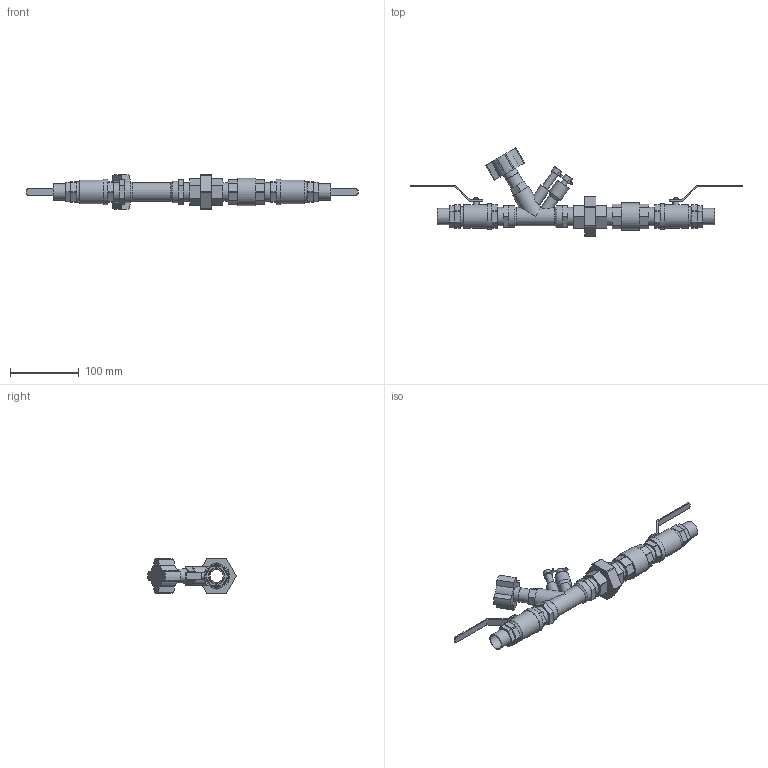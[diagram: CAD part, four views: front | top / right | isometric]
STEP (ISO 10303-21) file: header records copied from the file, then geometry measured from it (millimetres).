
FILE_DESCRIPTION(/* description */ ('VIC DOMESTIC WATER KIT FOR HYDRONIC BALANCING SERIES 7W9 (SWT)','CAx-IF Rec.Pracs.---Representation and Presentation of Product Manufacturing Information (PMI)---4.0---2014-10-13'),/* implementation_level */ '2;1');
FILE_NAME(/* name */ 'C:\Users\Vjadhav\AppData\Roaming\Autodesk\ApplicationPlugins\Victaulic.Temp\A633\Victaulic_Domestic Water Kit for Hydronic Balancing_Series 7W9 (CPF)_SWT_0.75 (20).stp',/* time_stamp */ '2021-08-10T10:25:54+06:00',/* author */ ('Vjadhav'),/* organization */ ('Victaulic'),/* preprocessor_version */ 'ST-DEVELOPER v17.2',/* originating_system */ 'Autodesk Inventor 2019',/* authorisation */ '');
FILE_SCHEMA (('AP242_MANAGED_MODEL_BASED_3D_ENGINEERING_MIM_LF { 1 0 10303 442 1 1 4 }'));
Length unit declared in the file: inch
Products named in the file (7): 7W9_SWT-0.75; Union_BR_386-0.75; Check_Valve_4133-0.75; Nipple_BR_386_Swt-0.75; 722L_Swt-0.75; Adapter_Sweat_604-0.75; 790-0.75
Assembly tree (11 placements, depth 2):
  7W9_SWT-0.75
    Union_BR_386-0.75
    Nipple_BR_386_Swt-0.75  x4
    722L_Swt-0.75  x2
    Check_Valve_4133-0.75
    Adapter_Sweat_604-0.75  x2
    790-0.75
Bounding box: 482.6 x 128.58 x 50.62 mm (x, y, z)
Volume: 289978.8 mm3; surface area: 127059.8 mm2
Topology: 11 solids, 11 shells, 365 faces, 957 edges, 655 vertices
Faces by surface type: plane 255, cylinder 105, cone 3, torus 2
Full cylindrical faces by diameter (mm): 4.572 x2, 8.763 x2, 9.652 x2, 12.7 x2, 15.24 x2, 18.847 x2, 20.32 x1, 20.828 x1, 20.879 x4, 20.93 x5, 21.59 x1, 22.225 x2, 23.851 x2, 26.67 x18, 31.42 x2, 34.052 x2, 36.83 x2, 39.751 x1
Entity records: 9113 total; most frequent: CARTESIAN_POINT 1652, DIRECTION 1496, ORIENTED_EDGE 1396, EDGE_CURVE 698, AXIS2_PLACEMENT_3D 529, VERTEX_POINT 474, LINE 438, VECTOR 438
